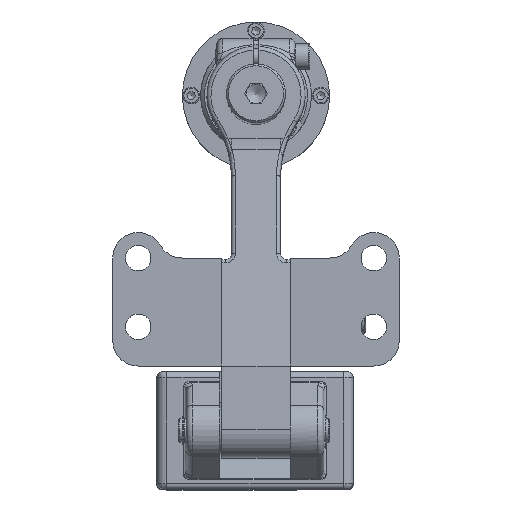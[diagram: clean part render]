
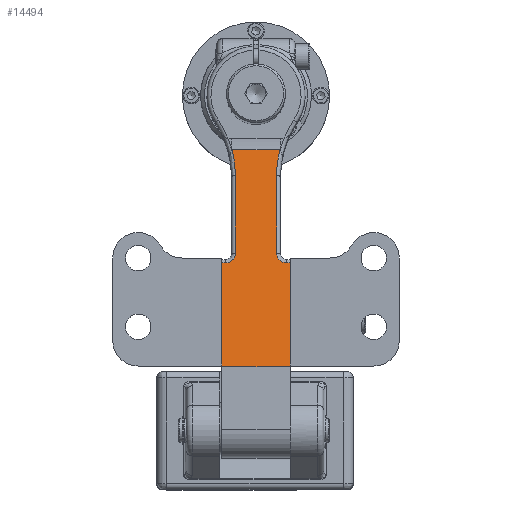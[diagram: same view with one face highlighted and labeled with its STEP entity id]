
A CAD part, top view. The second image highlights one B-rep face of the part: STEP entity #14494.
In plain terms, the highlighted planar face has unit normal (0, 0.16, 0.987).
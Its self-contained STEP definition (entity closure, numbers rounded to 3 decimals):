
#39=ELLIPSE('',#15784,52.448,52.);
#41=ELLIPSE('',#15788,52.448,52.);
#42=ELLIPSE('',#15789,5.043,5.);
#43=ELLIPSE('',#15790,5.043,5.);
#1576=LINE('',#21201,#2563);
#1579=LINE('',#21211,#2566);
#1641=LINE('',#21634,#2628);
#2101=LINE('',#24344,#3088);
#2102=LINE('',#24350,#3089);
#2104=LINE('',#24589,#3091);
#2105=LINE('',#24592,#3092);
#2106=LINE('',#24594,#3093);
#2107=LINE('',#24596,#3094);
#2108=LINE('',#24598,#3095);
#2109=LINE('',#24599,#3096);
#2110=LINE('',#24601,#3097);
#2111=LINE('',#24603,#3098);
#2112=LINE('',#24606,#3099);
#2563=VECTOR('',#16878,10.);
#2566=VECTOR('',#16885,10.);
#2628=VECTOR('',#17115,10.);
#3088=VECTOR('',#18891,10.);
#3089=VECTOR('',#18896,10.);
#3091=VECTOR('',#18922,10.);
#3092=VECTOR('',#18925,10.);
#3093=VECTOR('',#18926,10.);
#3094=VECTOR('',#18927,10.);
#3095=VECTOR('',#18928,10.);
#3096=VECTOR('',#18929,10.);
#3097=VECTOR('',#18930,10.);
#3098=VECTOR('',#18931,10.);
#3099=VECTOR('',#18934,10.);
#3640=PLANE('',#15787);
#4218=FACE_OUTER_BOUND('',#5062,.T.);
#5062=EDGE_LOOP('',(#12086,#12087,#12088,#12089,#12090,#12091,#12092,#12093,
#12094,#12095,#12096,#12097,#12098,#12099,#12100,#12101,#12102,#12103));
#6455=VERTEX_POINT('',#21171);
#6466=VERTEX_POINT('',#21200);
#6470=VERTEX_POINT('',#21208);
#6471=VERTEX_POINT('',#21210);
#7123=VERTEX_POINT('',#24333);
#7128=VERTEX_POINT('',#24342);
#7130=VERTEX_POINT('',#24347);
#7131=VERTEX_POINT('',#24349);
#7141=VERTEX_POINT('',#24580);
#7143=VERTEX_POINT('',#24586);
#7144=VERTEX_POINT('',#24588);
#7145=VERTEX_POINT('',#24590);
#7146=VERTEX_POINT('',#24593);
#7147=VERTEX_POINT('',#24595);
#7148=VERTEX_POINT('',#24597);
#7149=VERTEX_POINT('',#24600);
#7150=VERTEX_POINT('',#24602);
#7151=VERTEX_POINT('',#24604);
#7894=EDGE_CURVE('',#6455,#6466,#1576,.T.);
#7899=EDGE_CURVE('',#6471,#6470,#1579,.T.);
#8019=EDGE_CURVE('',#6470,#6455,#1641,.T.);
#8884=EDGE_CURVE('',#7123,#7128,#2101,.T.);
#8886=EDGE_CURVE('',#7130,#7131,#2102,.T.);
#8902=EDGE_CURVE('',#7131,#7141,#39,.T.);
#8905=EDGE_CURVE('',#7143,#7130,#41,.T.);
#8906=EDGE_CURVE('',#7144,#7143,#2104,.T.);
#8907=EDGE_CURVE('',#7145,#7144,#42,.T.);
#8908=EDGE_CURVE('',#6471,#7145,#2105,.T.);
#8909=EDGE_CURVE('',#6466,#7146,#2106,.T.);
#8910=EDGE_CURVE('',#7146,#7147,#2107,.T.);
#8911=EDGE_CURVE('',#7147,#7148,#2108,.T.);
#8912=EDGE_CURVE('',#7148,#7123,#2109,.T.);
#8913=EDGE_CURVE('',#7128,#7149,#2110,.T.);
#8914=EDGE_CURVE('',#7150,#7149,#2111,.T.);
#8915=EDGE_CURVE('',#7151,#7150,#43,.T.);
#8916=EDGE_CURVE('',#7141,#7151,#2112,.T.);
#12086=ORIENTED_EDGE('',*,*,#8886,.F.);
#12087=ORIENTED_EDGE('',*,*,#8905,.F.);
#12088=ORIENTED_EDGE('',*,*,#8906,.F.);
#12089=ORIENTED_EDGE('',*,*,#8907,.F.);
#12090=ORIENTED_EDGE('',*,*,#8908,.F.);
#12091=ORIENTED_EDGE('',*,*,#7899,.T.);
#12092=ORIENTED_EDGE('',*,*,#8019,.T.);
#12093=ORIENTED_EDGE('',*,*,#7894,.T.);
#12094=ORIENTED_EDGE('',*,*,#8909,.T.);
#12095=ORIENTED_EDGE('',*,*,#8910,.T.);
#12096=ORIENTED_EDGE('',*,*,#8911,.T.);
#12097=ORIENTED_EDGE('',*,*,#8912,.T.);
#12098=ORIENTED_EDGE('',*,*,#8884,.T.);
#12099=ORIENTED_EDGE('',*,*,#8913,.T.);
#12100=ORIENTED_EDGE('',*,*,#8914,.F.);
#12101=ORIENTED_EDGE('',*,*,#8915,.F.);
#12102=ORIENTED_EDGE('',*,*,#8916,.F.);
#12103=ORIENTED_EDGE('',*,*,#8902,.F.);
#14494=ADVANCED_FACE('',(#4218),#3640,.T.);
#15784=AXIS2_PLACEMENT_3D('',#24581,#18912,#18913);
#15787=AXIS2_PLACEMENT_3D('',#24585,#18918,#18919);
#15788=AXIS2_PLACEMENT_3D('',#24587,#18920,#18921);
#15789=AXIS2_PLACEMENT_3D('',#24591,#18923,#18924);
#15790=AXIS2_PLACEMENT_3D('',#24605,#18932,#18933);
#16878=DIRECTION('',(0.,-0.987,0.16));
#16885=DIRECTION('',(0.,-0.987,0.16));
#17115=DIRECTION('',(0.,-0.987,0.16));
#18891=DIRECTION('',(0.,0.987,-0.16));
#18896=DIRECTION('',(1.,0.,0.));
#18912=DIRECTION('center_axis',(0.,0.16,
0.987));
#18913=DIRECTION('ref_axis',(0.,0.987,-0.16));
#18918=DIRECTION('center_axis',(0.,0.16,
0.987));
#18919=DIRECTION('ref_axis',(1.,0.,0.));
#18920=DIRECTION('center_axis',(0.,0.16,
0.987));
#18921=DIRECTION('ref_axis',(0.,0.987,-0.16));
#18922=DIRECTION('',(0.,0.987,-0.16));
#18923=DIRECTION('center_axis',(0.,0.16,
0.987));
#18924=DIRECTION('ref_axis',(0.,-0.987,0.16));
#18925=DIRECTION('',(1.,0.,0.));
#18926=DIRECTION('',(0.,-0.987,0.16));
#18927=DIRECTION('',(1.,0.,0.));
#18928=DIRECTION('',(0.,0.987,-0.16));
#18929=DIRECTION('',(0.,0.987,-0.16));
#18930=DIRECTION('',(0.,0.987,-0.16));
#18931=DIRECTION('',(1.,0.,0.));
#18932=DIRECTION('center_axis',(0.,0.16,
0.987));
#18933=DIRECTION('ref_axis',(0.,-0.987,0.16));
#18934=DIRECTION('',(0.,-0.987,0.16));
#21171=CARTESIAN_POINT('',(29.5,15.,53.213));
#21200=CARTESIAN_POINT('',(29.5,2.,55.32));
#21201=CARTESIAN_POINT('',(29.5,29.394,50.879));
#21208=CARTESIAN_POINT('',(29.5,37.,49.647));
#21210=CARTESIAN_POINT('',(29.5,54.606,46.793));
#21211=CARTESIAN_POINT('',(29.5,29.394,50.879));
#21634=CARTESIAN_POINT('',(29.5,29.394,50.879));
#24333=CARTESIAN_POINT('',(64.5,15.,53.213));
#24342=CARTESIAN_POINT('',(64.5,37.,49.647));
#24344=CARTESIAN_POINT('',(64.5,-20.03,58.891));
#24347=CARTESIAN_POINT('',(34.743,112.299,37.441));
#24349=CARTESIAN_POINT('',(59.257,112.299,37.441));
#24350=CARTESIAN_POINT('',(47.,112.299,37.441));
#24580=CARTESIAN_POINT('',(57.5,98.954,39.604));
#24581=CARTESIAN_POINT('Origin',(109.5,98.954,39.604));
#24585=CARTESIAN_POINT('Origin',(47.,1.579,55.388));
#24586=CARTESIAN_POINT('',(36.5,98.954,39.604));
#24587=CARTESIAN_POINT('Origin',(-15.5,98.954,39.604));
#24588=CARTESIAN_POINT('',(36.5,59.585,45.986));
#24589=CARTESIAN_POINT('',(36.5,50.211,47.505));
#24590=CARTESIAN_POINT('',(31.5,54.606,46.793));
#24591=CARTESIAN_POINT('Origin',(31.5,59.585,45.986));
#24592=CARTESIAN_POINT('',(39.25,54.606,46.793));
#24593=CARTESIAN_POINT('',(29.5,1.579,55.388));
#24594=CARTESIAN_POINT('',(29.5,29.394,50.879));
#24595=CARTESIAN_POINT('',(64.5,1.579,55.388));
#24596=CARTESIAN_POINT('',(47.,1.579,55.388));
#24597=CARTESIAN_POINT('',(64.5,2.,55.32));
#24598=CARTESIAN_POINT('',(64.5,-20.03,58.891));
#24599=CARTESIAN_POINT('',(64.5,-20.03,58.891));
#24600=CARTESIAN_POINT('',(64.5,54.606,46.793));
#24601=CARTESIAN_POINT('',(64.5,-20.03,58.891));
#24602=CARTESIAN_POINT('',(62.5,54.606,46.793));
#24603=CARTESIAN_POINT('',(55.75,54.606,46.793));
#24604=CARTESIAN_POINT('',(57.5,59.585,45.986));
#24605=CARTESIAN_POINT('Origin',(62.5,59.585,45.986));
#24606=CARTESIAN_POINT('',(57.5,30.862,50.642));
